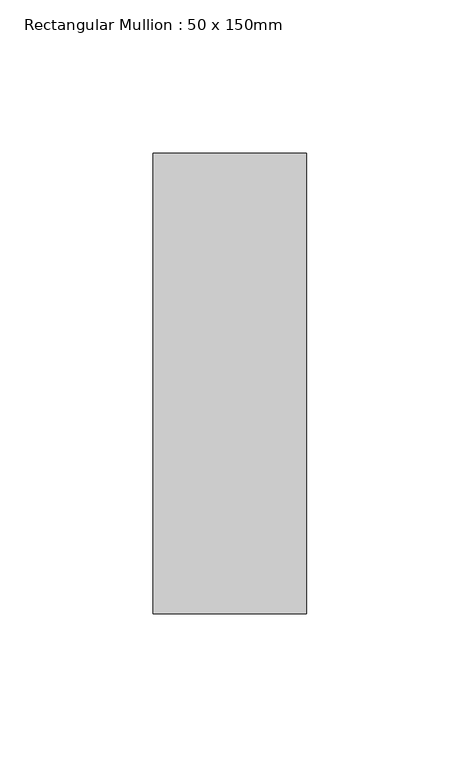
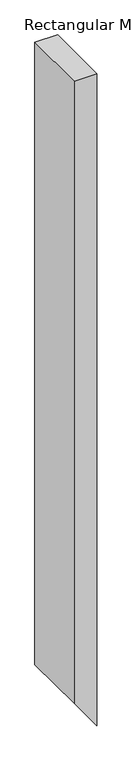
"""IFC4 building model written with IfcOpenShell, lengths in millimetres: member geometry, Rectangular Mullion : 50 x 150mm."""

from ifc_helpers import new_model, si_unit, frame, origin, place, context, project, spatial, polyline, outline, extrude, source, transform, mapped, element, save


def rectangular_mullion_50_x_150mm_4247da93(model_context):
    return source(origin(), model_context, "Body", "SweptSolid", [
        extrude(outline(polyline([(0.0, 0.0), (0.0, -50.0), (-1454.3601007, -50.0), (-1523.7250795, 0.0), (0.0, 0.0)])), frame((0.0, -75.0, 0.0), z_axis=(0.0, 1.0, 0.0), x_axis=(0.0, 0.0, 1.0)), (0.0, 0.0, 1.0), 150.0),
    ])


if __name__ == "__main__":
    model = new_model("IFC4")
    model_context = context("Model", 3, world=origin())
    ifc_project = project(units=[si_unit("LENGTHUNIT", "METRE", prefix="MILLI")], contexts=[model_context])
    site = spatial("IfcSite", under=ifc_project)
    building = spatial("IfcBuilding", under=site)
    placement = place(None, origin())
    rectangular_mullion_50_x_150mm_shape = rectangular_mullion_50_x_150mm_4247da93(model_context)
    element("IfcMember", 1, ObjectType="Rectangular Mullion : 50 x 150mm", at=placement, inside=building, context=model_context, shape_type="MappedRepresentation", body=[
        mapped(rectangular_mullion_50_x_150mm_shape, transform((0.0, 0.0, 0.0), x_axis=(1.0, 0.0, 0.0), y_axis=(0.0, 1.0, 0.0), z_axis=(0.0, 0.0, 1.0))),
    ])
    save(model, "model.ifc")
